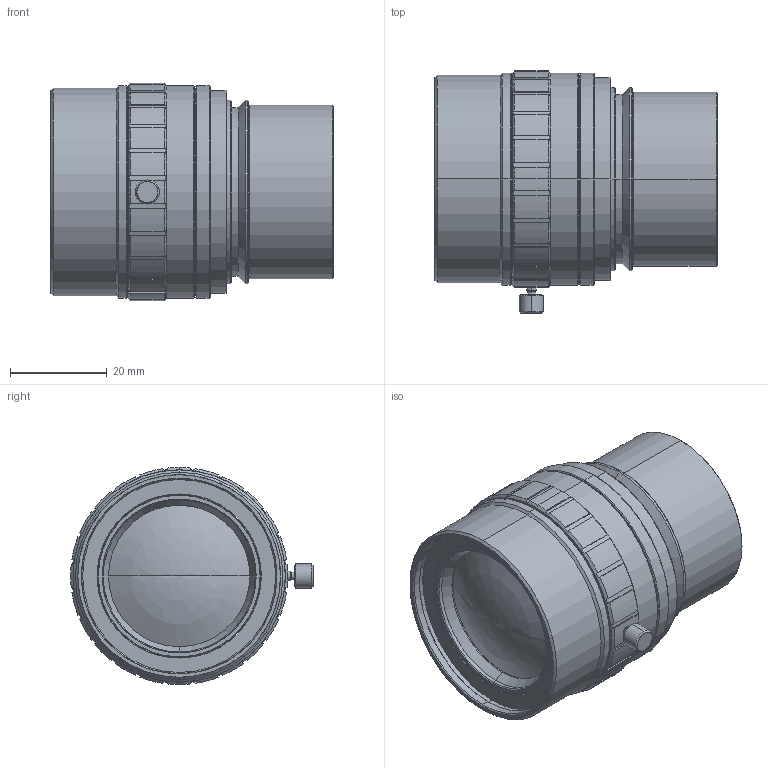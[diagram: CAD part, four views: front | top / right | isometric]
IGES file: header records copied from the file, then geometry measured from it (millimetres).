
Start section: SolidWorks IGES file using analytic representation for surfaces
Global section: file name: \\192.168.200.11\Development\03 ラインセンサーレンズ\01 VS-L series\120 VS-L12056-03_V,05_V,075_V,1_V\3D\VS-L12056-1_V\VS-L12056-1_V.IGS; native system: SolidWorks 2014; preprocessor: SolidWorks 2014; author: miura_vst; date: 141106.130333; units: millimetre
Bounding box: 58.5 x 50.29 x 45 mm (x, y, z)
Surface area: 12558.7 mm2 (no closed solid volume)
Topology: 0 solids, 0 shells, 220 faces, 2812 edges, 2810 vertices
Faces by surface type: revolution 133, bspline 87
